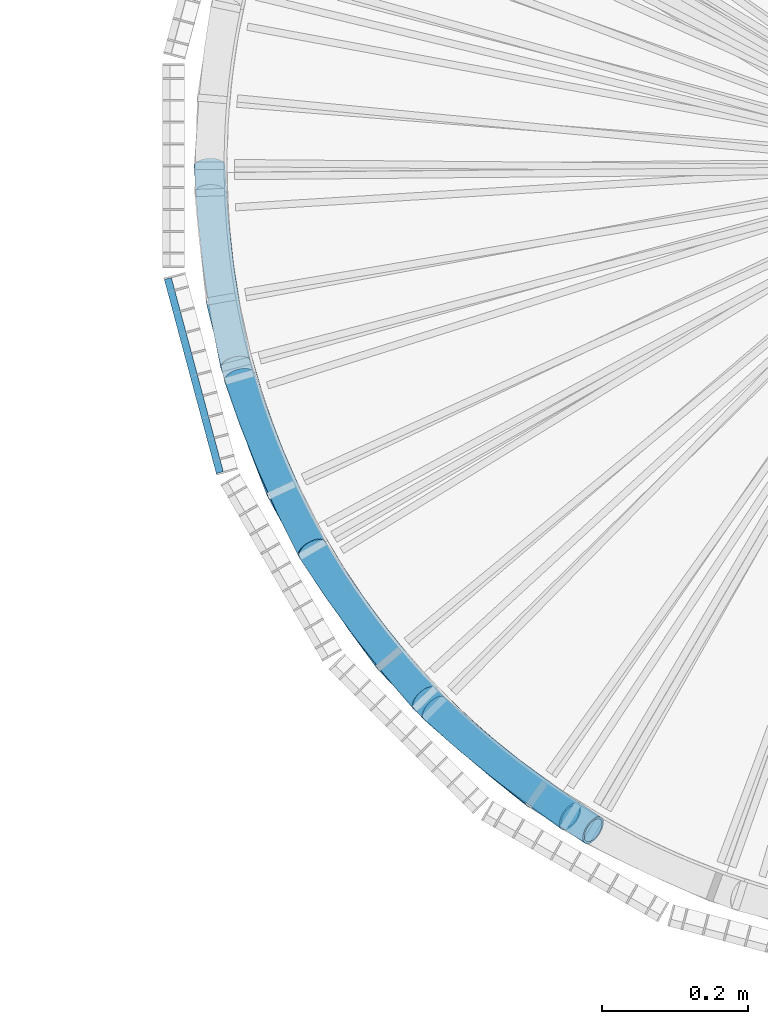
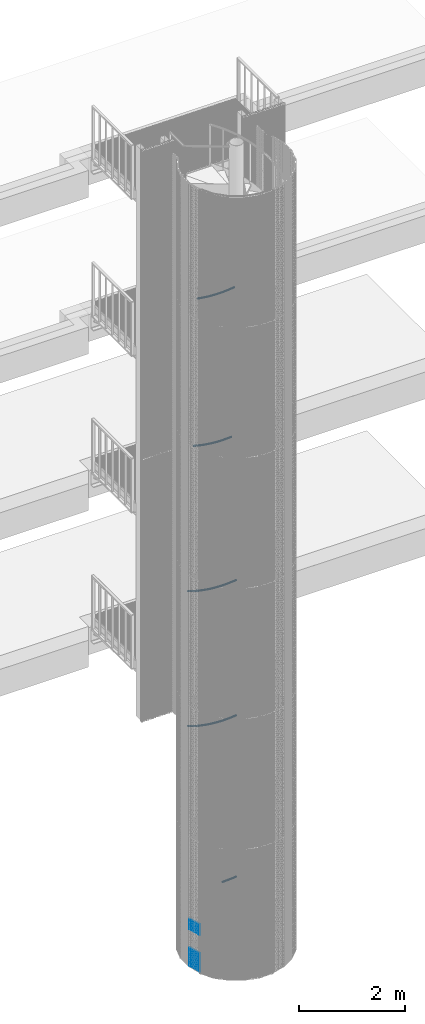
# One storey, part 134 of 1183: 24 beams, 15 members, 16 elements without a shape of their own.
"""IFC2X3 building model written with IfcOpenShell, lengths in millimetres."""

import ifcopenshell
import ifcopenshell.guid

model = None  # the IFC model being written
_history = None  # IfcOwnerHistory: only IFC2X3 demands one
_inside = {}  # id of a spatial element -> (the spatial element, [elements in it])
_under = {}  # id of a project, library or spatial element -> (it, [spatial elements below it])
_declared = {}  # id of a project -> (the project, [libraries it declares])
_typed = {}  # id of a type object -> (the type object, [elements of that type])
_made_of = {}  # id of a material, layer set ... -> (it, [elements and type objects made of it])


def new_model(schema):
    """Start an empty IFC model of exactly this schema.

    Asked for "IFC4X3", IfcOpenShell would pick the latest addendum, in which some entities
    have other attributes; the version numbers below select the first issue.
    IFC2X3 requires an IfcOwnerHistory on every rooted entity: one is made here for all.
    """
    global model, _history
    if schema == "IFC4X3":
        model = ifcopenshell.file(schema_version=(4, 3, 0, 0))
    else:
        model = ifcopenshell.file(schema=schema)
    _inside.clear()
    _under.clear()
    _declared.clear()
    _typed.clear()
    _made_of.clear()
    _history = None
    if model.schema == "IFC2X3":
        org = make("IfcOrganization", Name="unknown")
        user = make(
            "IfcPersonAndOrganization",
            ThePerson=make("IfcPerson", FamilyName="unknown"),
            TheOrganization=org,
        )
        app = make(
            "IfcApplication",
            ApplicationDeveloper=org,
            Version="unknown",
            ApplicationFullName="unknown",
            ApplicationIdentifier="unknown",
        )
        _history = make(
            "IfcOwnerHistory",
            OwningUser=user,
            OwningApplication=app,
            ChangeAction="ADDED",
            CreationDate=0,
        )
    return model


def make(cls, **values):
    """One entity of the class cls with the attributes given. An attribute that is None is left unset."""
    return model.create_entity(
        cls, **{name: value for name, value in values.items() if value is not None}
    )


def entity(cls, *values):
    """Any entity or typed value of the class cls, its attributes in the order of the schema. None: left unset."""
    e = model.create_entity(cls)
    for i, value in enumerate(values):
        if value is not None:
            e[i] = value
    return e


def rooted(cls, **values):
    """An entity with a GlobalId (a new one), such as an element, a storey or a relation."""
    return make(cls, GlobalId=ifcopenshell.guid.new(), OwnerHistory=_history, **values)


def si_unit(unit_type, name, prefix=None):
    """IfcSIUnit, for example si_unit("LENGTHUNIT", "METRE", prefix="MILLI")."""
    return make("IfcSIUnit", UnitType=unit_type, Prefix=prefix, Name=name)


def assignment(units):
    """IfcUnitAssignment: the units of a project."""
    return None if units is None else make("IfcUnitAssignment", Units=units)


def point(xyz):
    """IfcCartesianPoint."""
    return None if xyz is None else make("IfcCartesianPoint", Coordinates=xyz)


def direction(xyz):
    """IfcDirection."""
    return None if xyz is None else make("IfcDirection", DirectionRatios=xyz)


def frame(location, z_axis=None, x_axis=None):
    """IfcAxis2Placement3D, a coordinate frame: its origin and axes. An axis left out is left unset."""
    return make(
        "IfcAxis2Placement3D",
        Location=point(location),
        Axis=direction(z_axis),
        RefDirection=direction(x_axis),
    )


def frame_2d(location, x_axis=None):
    """IfcAxis2Placement2D, a coordinate frame in the plane: its origin and x axis."""
    return make(
        "IfcAxis2Placement2D", Location=point(location), RefDirection=direction(x_axis)
    )


def origin_with_axes():
    """The frame at (0, 0, 0) with the z axis (0, 0, 1) and the x axis (1, 0, 0) written out."""
    return frame((0.0, 0.0, 0.0), z_axis=(0.0, 0.0, 1.0), x_axis=(1.0, 0.0, 0.0))


def origin_2d_with_axis():
    """The frame at (0, 0) in the plane with the x axis (1, 0) written out."""
    return frame_2d((0.0, 0.0), x_axis=(1.0, 0.0))


def place(relative_to, where):
    """IfcLocalPlacement: puts the frame where relative to a parent placement (None: the world)."""
    return make(
        "IfcLocalPlacement", PlacementRelTo=relative_to, RelativePlacement=where
    )


def context(
    kind, dimensions, precision=None, world=None, true_north=None, identifier=None
):
    """IfcGeometricRepresentationContext, for example the 3D "Model" context."""
    return make(
        "IfcGeometricRepresentationContext",
        ContextIdentifier=identifier,
        ContextType=kind,
        CoordinateSpaceDimension=dimensions,
        Precision=precision,
        WorldCoordinateSystem=world,
        TrueNorth=true_north,
    )


def subcontext(parent, identifier, kind, view, scale=None):
    """IfcGeometricRepresentationSubContext, for example "Body" below "Model"."""
    return make(
        "IfcGeometricRepresentationSubContext",
        ContextIdentifier=identifier,
        ContextType=kind,
        ParentContext=parent,
        TargetScale=scale,
        TargetView=view,
    )


def project(units=None, contexts=None):
    """IfcProject with its units and contexts."""
    return rooted(
        "IfcProject",
        Name="project",
        RepresentationContexts=contexts,
        UnitsInContext=assignment(units),
    )


def spatial(cls, under=None, at=None, **own):
    """A site, building, storey or space (cls), placed at a placement, below another one or the project."""
    s = rooted(cls, ObjectPlacement=at, **own)
    if under is not None:
        _under.setdefault(under.id(), (under, []))[1].append(s)
    return s


def profile(cls, at=None, kind="AREA", **sizes):
    """A parametric profile (cls). Its sizes go by their IFC names, for example OverallWidth=200.0."""
    return make(cls, ProfileType=kind, Position=at, **sizes)


def rectangle(**sizes):
    """IfcRectangleProfileDef."""
    return profile("IfcRectangleProfileDef", **sizes)


def extrude(swept, where, along, depth):
    """IfcExtrudedAreaSolid: the profile swept, set in the frame where, extruded along a direction by depth."""
    return make(
        "IfcExtrudedAreaSolid",
        SweptArea=swept,
        Position=where,
        ExtrudedDirection=direction(along),
        Depth=depth,
    )


def shape(context_of_items, identifier, shape_type, items):
    """IfcShapeRepresentation: the items that make up one representation, for example the "Body"."""
    return make(
        "IfcShapeRepresentation",
        ContextOfItems=context_of_items,
        RepresentationIdentifier=identifier,
        RepresentationType=shape_type,
        Items=items,
    )


def material(Name=None, Category=None):
    """IfcMaterial."""
    return make("IfcMaterial", Name=Name, Category=Category)


def made_of(thing, what):
    """Note that an element or type object is made of a material, layer set ...; save() writes the relation."""
    if what is not None:
        _made_of.setdefault(what.id(), (what, []))[1].append(thing)
    return thing


def type_object(cls, material=None, **own):
    """A type object (cls), such as IfcWallType, which elements share."""
    return made_of(rooted(cls, **own), material)


def element(
    cls,
    number,
    at=None,
    inside=None,
    cuts=None,
    type_object=None,
    material=None,
    context=None,
    identifier="Body",
    shape_type=None,
    held_by="IfcProductDefinitionShape",
    body=None,
    shapes=None,
    **own,
):
    """One element of the class cls, such as IfcWall. Its Tag is "e" and its number.

    at: its placement. inside: the storey or other place that contains it. cuts: it is an
    opening in that element (IfcRelVoidsElement). A single representation is given by context,
    identifier, shape_type and body (its items); several are given by shapes. held_by: the class
    of the entity that holds the representations. save() writes the other relations.
    """
    e = rooted(cls, Tag="e%d" % number, ObjectPlacement=at, **own)
    if body is not None:
        shapes = [shape(context, identifier, shape_type, body)]
    if shapes is not None:
        e.Representation = make(held_by, Representations=shapes)
    if inside is not None:
        _inside.setdefault(inside.id(), (inside, []))[1].append(e)
    if cuts is not None:
        rooted(
            "IfcRelVoidsElement", RelatingBuildingElement=cuts, RelatedOpeningElement=e
        )
    if type_object is not None:
        _typed.setdefault(type_object.id(), (type_object, []))[1].append(e)
    return made_of(e, material)


def aggregate(whole, parts):
    """IfcRelAggregates: a whole, such as a stair, and the parts it consists of."""
    return rooted("IfcRelAggregates", RelatingObject=whole, RelatedObjects=parts)


def save(model, path):
    """Write the relations noted so far, then the file.

    IfcRelAggregates (storeys below a building ...), IfcRelContainedInSpatialStructure (elements
    in a storey), IfcRelDefinesByType, IfcRelAssociatesMaterial and IfcRelDeclares: one each for
    every whole, place, type object, material and project.
    """
    for whole, parts in _under.values():
        aggregate(whole, parts)
    for where, things in _inside.values():
        rooted(
            "IfcRelContainedInSpatialStructure",
            RelatedElements=things,
            RelatingStructure=where,
        )
    for kind, things in _typed.values():
        rooted("IfcRelDefinesByType", RelatedObjects=things, RelatingType=kind)
    for what, things in _made_of.values():
        rooted("IfcRelAssociatesMaterial", RelatedObjects=things, RelatingMaterial=what)
    for by, libraries in _declared.values():
        rooted("IfcRelDeclares", RelatingContext=by, RelatedDefinitions=libraries)
    model.write(path)


model = new_model("IFC2X3")

# Units and contexts
model_context = context("Model", 3, precision=1e-05, world=origin_with_axes())
body_context = subcontext(model_context, "Body", "Model", "MODEL_VIEW")
ifc_project = project(units=[si_unit("LENGTHUNIT", "METRE", prefix="MILLI"), si_unit("AREAUNIT", "SQUARE_METRE"), si_unit("VOLUMEUNIT", "CUBIC_METRE"), si_unit("MASSUNIT", "GRAM", prefix="KILO"), si_unit("TIMEUNIT", "SECOND"), si_unit("PLANEANGLEUNIT", "RADIAN"), si_unit("SOLIDANGLEUNIT", "STERADIAN"), si_unit("THERMODYNAMICTEMPERATUREUNIT", "DEGREE_CELSIUS"), si_unit("LUMINOUSINTENSITYUNIT", "LUMEN")], contexts=[model_context])

# Site, building, storey
site_placement = place(None, origin_with_axes())
site = spatial("IfcSite", under=ifc_project, at=site_placement, Name="Undefined", CompositionType="ELEMENT")
building_placement = place(site_placement, origin_with_axes())
building = spatial("IfcBuilding", under=site, at=building_placement, Name="Undefined", CompositionType="ELEMENT")
storey_placement = place(building_placement, origin_with_axes())
storey = spatial("IfcBuildingStorey", under=building, at=storey_placement, Name="Undefined", CompositionType="ELEMENT", Elevation=0.0)

# Assembly, beams
assembly_1_placement = place(storey_placement, origin_with_axes())
assembly_1 = element("IfcElementAssembly", 1, at=assembly_1_placement, inside=storey, Name="BORDURE", AssemblyPlace="NOTDEFINED", PredefinedType="NOTDEFINED")
ifc_material = material(Name="STEEL/S235JR")
beam_type = type_object("IfcBeamType", Name="PL2*10", PredefinedType="NOTDEFINED")
beam_1_placement = place(assembly_1_placement, frame((-1111.25508286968, -154.895926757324, 869.999999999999), z_axis=(-0.965925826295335, -0.258819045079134, 0.0), x_axis=(0.258819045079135, -0.965925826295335, 0.0)))
beam_1 = element("IfcBeam", 2, at=beam_1_placement, type_object=beam_type, material=ifc_material, Name="ENTRETOISE", context=body_context, shape_type="SweptSolid", body=[
    extrude(rectangle(XDim=2.0, YDim=10.0, at=origin_2d_with_axis()), frame((275.999999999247, 9.09494701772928e-13, 1.53210777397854e-14), z_axis=(-1.0, 0.0, 0.0), x_axis=(0.0, -1.0, 0.0)), (0.0, 0.0, 1.0), 276.0),
])
beam_2_placement = place(assembly_1_placement, frame((-1111.25508286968, -154.895926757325, 449.999999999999), z_axis=(-0.965925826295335, -0.258819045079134, 0.0), x_axis=(0.258819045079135, -0.965925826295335, 0.0)))
beam_2 = element("IfcBeam", 3, at=beam_2_placement, type_object=beam_type, material=ifc_material, Name="ENTRETOISE", context=body_context, shape_type="SweptSolid", body=[
    extrude(rectangle(XDim=2.0, YDim=10.0, at=origin_2d_with_axis()), frame((275.999999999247, 9.09494701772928e-13, 1.53210777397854e-14), z_axis=(-1.0, 0.0, 0.0), x_axis=(0.0, -1.0, 0.0)), (0.0, 0.0, 1.0), 276.0),
])
beam_3_placement = place(assembly_1_placement, frame((-1111.25508286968, -154.895926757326, 419.999999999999), z_axis=(-0.965925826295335, -0.258819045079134, 0.0), x_axis=(0.258819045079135, -0.965925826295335, 0.0)))
beam_3 = element("IfcBeam", 4, at=beam_3_placement, type_object=beam_type, material=ifc_material, Name="ENTRETOISE", context=body_context, shape_type="SweptSolid", body=[
    extrude(rectangle(XDim=2.0, YDim=10.0, at=origin_2d_with_axis()), frame((275.999999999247, 9.09494701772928e-13, 1.53210777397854e-14), z_axis=(-1.0, 0.0, 0.0), x_axis=(0.0, -1.0, 0.0)), (0.0, 0.0, 1.0), 276.0),
])
beam_4_placement = place(assembly_1_placement, frame((-1111.25508286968, -154.895926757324, 899.999999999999), z_axis=(-0.965925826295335, -0.258819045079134, 0.0), x_axis=(0.258819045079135, -0.965925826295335, 0.0)))
beam_4 = element("IfcBeam", 5, at=beam_4_placement, type_object=beam_type, material=ifc_material, Name="ENTRETOISE", context=body_context, shape_type="SweptSolid", body=[
    extrude(rectangle(XDim=2.0, YDim=10.0, at=origin_2d_with_axis()), frame((275.999999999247, 9.09494701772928e-13, 1.53210777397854e-14), z_axis=(-1.0, 0.0, 0.0), x_axis=(0.0, -1.0, 0.0)), (0.0, 0.0, 1.0), 276.0),
])
beam_5_placement = place(assembly_1_placement, frame((-1111.25508286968, -154.895926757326, 389.999999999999), z_axis=(-0.965925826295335, -0.258819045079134, 0.0), x_axis=(0.258819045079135, -0.965925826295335, 0.0)))
beam_5 = element("IfcBeam", 6, at=beam_5_placement, type_object=beam_type, material=ifc_material, Name="ENTRETOISE", context=body_context, shape_type="SweptSolid", body=[
    extrude(rectangle(XDim=2.0, YDim=10.0, at=origin_2d_with_axis()), frame((275.999999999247, 9.09494701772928e-13, 1.53210777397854e-14), z_axis=(-1.0, 0.0, 0.0), x_axis=(0.0, -1.0, 0.0)), (0.0, 0.0, 1.0), 276.0),
])
beam_6_placement = place(assembly_1_placement, frame((-1111.25508286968, -154.895926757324, 929.999999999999), z_axis=(-0.965925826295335, -0.258819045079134, 0.0), x_axis=(0.258819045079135, -0.965925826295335, 0.0)))
beam_6 = element("IfcBeam", 7, at=beam_6_placement, type_object=beam_type, material=ifc_material, Name="ENTRETOISE", context=body_context, shape_type="SweptSolid", body=[
    extrude(rectangle(XDim=2.0, YDim=10.0, at=origin_2d_with_axis()), frame((275.999999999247, 9.09494701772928e-13, 1.53210777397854e-14), z_axis=(-1.0, 0.0, 0.0), x_axis=(0.0, -1.0, 0.0)), (0.0, 0.0, 1.0), 276.0),
])
beam_7_placement = place(assembly_1_placement, frame((-1111.25508286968, -154.895926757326, 359.999999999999), z_axis=(-0.965925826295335, -0.258819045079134, 0.0), x_axis=(0.258819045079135, -0.965925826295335, 0.0)))
beam_7 = element("IfcBeam", 8, at=beam_7_placement, type_object=beam_type, material=ifc_material, Name="ENTRETOISE", context=body_context, shape_type="SweptSolid", body=[
    extrude(rectangle(XDim=2.0, YDim=10.0, at=origin_2d_with_axis()), frame((275.999999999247, 9.09494701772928e-13, 1.53210777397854e-14), z_axis=(-1.0, 0.0, 0.0), x_axis=(0.0, -1.0, 0.0)), (0.0, 0.0, 1.0), 276.0),
])
beam_8_placement = place(assembly_1_placement, frame((-1111.25508286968, -154.895926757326, 329.999999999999), z_axis=(-0.965925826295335, -0.258819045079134, 0.0), x_axis=(0.258819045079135, -0.965925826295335, 0.0)))
beam_8 = element("IfcBeam", 9, at=beam_8_placement, type_object=beam_type, material=ifc_material, Name="ENTRETOISE", context=body_context, shape_type="SweptSolid", body=[
    extrude(rectangle(XDim=2.0, YDim=10.0, at=origin_2d_with_axis()), frame((275.999999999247, 9.09494701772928e-13, 1.53210777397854e-14), z_axis=(-1.0, 0.0, 0.0), x_axis=(0.0, -1.0, 0.0)), (0.0, 0.0, 1.0), 276.0),
])
beam_9_placement = place(assembly_1_placement, frame((-1111.25508286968, -154.895926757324, 959.999999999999), z_axis=(-0.965925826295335, -0.258819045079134, 0.0), x_axis=(0.258819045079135, -0.965925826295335, 0.0)))
beam_9 = element("IfcBeam", 10, at=beam_9_placement, type_object=beam_type, material=ifc_material, Name="ENTRETOISE", context=body_context, shape_type="SweptSolid", body=[
    extrude(rectangle(XDim=2.0, YDim=10.0, at=origin_2d_with_axis()), frame((275.999999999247, 9.09494701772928e-13, 1.53210777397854e-14), z_axis=(-1.0, 0.0, 0.0), x_axis=(0.0, -1.0, 0.0)), (0.0, 0.0, 1.0), 276.0),
])
beam_10_placement = place(assembly_1_placement, frame((-1111.25508286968, -154.895926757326, 299.999999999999), z_axis=(-0.965925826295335, -0.258819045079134, 0.0), x_axis=(0.258819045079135, -0.965925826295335, 0.0)))
beam_10 = element("IfcBeam", 11, at=beam_10_placement, type_object=beam_type, material=ifc_material, Name="ENTRETOISE", context=body_context, shape_type="SweptSolid", body=[
    extrude(rectangle(XDim=2.0, YDim=10.0, at=origin_2d_with_axis()), frame((275.999999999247, 9.09494701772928e-13, 1.53210777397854e-14), z_axis=(-1.0, 0.0, 0.0), x_axis=(0.0, -1.0, 0.0)), (0.0, 0.0, 1.0), 276.0),
])
beam_11_placement = place(assembly_1_placement, frame((-1111.25508286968, -154.895926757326, 269.999999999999), z_axis=(-0.965925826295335, -0.258819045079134, 0.0), x_axis=(0.258819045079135, -0.965925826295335, 0.0)))
beam_11 = element("IfcBeam", 12, at=beam_11_placement, type_object=beam_type, material=ifc_material, Name="ENTRETOISE", context=body_context, shape_type="SweptSolid", body=[
    extrude(rectangle(XDim=2.0, YDim=10.0, at=origin_2d_with_axis()), frame((275.999999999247, 9.09494701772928e-13, 1.53210777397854e-14), z_axis=(-1.0, 0.0, 0.0), x_axis=(0.0, -1.0, 0.0)), (0.0, 0.0, 1.0), 276.0),
])
beam_12_placement = place(assembly_1_placement, frame((-1111.25508286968, -154.895926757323, 989.999999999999), z_axis=(-0.965925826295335, -0.258819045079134, 0.0), x_axis=(0.258819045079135, -0.965925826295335, 0.0)))
beam_12 = element("IfcBeam", 13, at=beam_12_placement, type_object=beam_type, material=ifc_material, Name="ENTRETOISE", context=body_context, shape_type="SweptSolid", body=[
    extrude(rectangle(XDim=2.0, YDim=10.0, at=origin_2d_with_axis()), frame((275.999999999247, 9.09494701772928e-13, 1.53210777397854e-14), z_axis=(-1.0, 0.0, 0.0), x_axis=(0.0, -1.0, 0.0)), (0.0, 0.0, 1.0), 276.0),
])
beam_13_placement = place(assembly_1_placement, frame((-1111.25508286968, -154.895926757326, 239.999999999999), z_axis=(-0.965925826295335, -0.258819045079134, 0.0), x_axis=(0.258819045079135, -0.965925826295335, 0.0)))
beam_13 = element("IfcBeam", 14, at=beam_13_placement, type_object=beam_type, material=ifc_material, Name="ENTRETOISE", context=body_context, shape_type="SweptSolid", body=[
    extrude(rectangle(XDim=2.0, YDim=10.0, at=origin_2d_with_axis()), frame((275.999999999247, 9.09494701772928e-13, 1.53210777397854e-14), z_axis=(-1.0, 0.0, 0.0), x_axis=(0.0, -1.0, 0.0)), (0.0, 0.0, 1.0), 276.0),
])
beam_14_placement = place(assembly_1_placement, frame((-1111.25508286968, -154.895926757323, 1020.0), z_axis=(-0.965925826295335, -0.258819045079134, 0.0), x_axis=(0.258819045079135, -0.965925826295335, 0.0)))
beam_14 = element("IfcBeam", 15, at=beam_14_placement, type_object=beam_type, material=ifc_material, Name="ENTRETOISE", context=body_context, shape_type="SweptSolid", body=[
    extrude(rectangle(XDim=2.0, YDim=10.0, at=origin_2d_with_axis()), frame((275.999999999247, 9.09494701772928e-13, 1.53210777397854e-14), z_axis=(-1.0, 0.0, 0.0), x_axis=(0.0, -1.0, 0.0)), (0.0, 0.0, 1.0), 276.0),
])
beam_15_placement = place(assembly_1_placement, frame((-1111.25508286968, -154.895926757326, 209.999999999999), z_axis=(-0.965925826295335, -0.258819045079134, 0.0), x_axis=(0.258819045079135, -0.965925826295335, 0.0)))
beam_15 = element("IfcBeam", 16, at=beam_15_placement, type_object=beam_type, material=ifc_material, Name="ENTRETOISE", context=body_context, shape_type="SweptSolid", body=[
    extrude(rectangle(XDim=2.0, YDim=10.0, at=origin_2d_with_axis()), frame((275.999999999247, 9.09494701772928e-13, 1.53210777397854e-14), z_axis=(-1.0, 0.0, 0.0), x_axis=(0.0, -1.0, 0.0)), (0.0, 0.0, 1.0), 276.0),
])
beam_16_placement = place(assembly_1_placement, frame((-1111.25508286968, -154.895926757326, 179.999999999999), z_axis=(-0.965925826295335, -0.258819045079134, 0.0), x_axis=(0.258819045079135, -0.965925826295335, 0.0)))
beam_16 = element("IfcBeam", 17, at=beam_16_placement, type_object=beam_type, material=ifc_material, Name="ENTRETOISE", context=body_context, shape_type="SweptSolid", body=[
    extrude(rectangle(XDim=2.0, YDim=10.0, at=origin_2d_with_axis()), frame((275.999999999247, 9.09494701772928e-13, 1.53210777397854e-14), z_axis=(-1.0, 0.0, 0.0), x_axis=(0.0, -1.0, 0.0)), (0.0, 0.0, 1.0), 276.0),
])
beam_17_placement = place(assembly_1_placement, frame((-1111.25508286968, -154.895926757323, 1050.0), z_axis=(-0.965925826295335, -0.258819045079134, 0.0), x_axis=(0.258819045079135, -0.965925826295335, 0.0)))
beam_17 = element("IfcBeam", 18, at=beam_17_placement, type_object=beam_type, material=ifc_material, Name="ENTRETOISE", context=body_context, shape_type="SweptSolid", body=[
    extrude(rectangle(XDim=2.0, YDim=10.0, at=origin_2d_with_axis()), frame((275.999999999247, 9.09494701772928e-13, 1.53210777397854e-14), z_axis=(-1.0, 0.0, 0.0), x_axis=(0.0, -1.0, 0.0)), (0.0, 0.0, 1.0), 276.0),
])
beam_18_placement = place(assembly_1_placement, frame((-1111.25508286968, -154.895926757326, 149.999999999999), z_axis=(-0.965925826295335, -0.258819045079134, 0.0), x_axis=(0.258819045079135, -0.965925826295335, 0.0)))
beam_18 = element("IfcBeam", 19, at=beam_18_placement, type_object=beam_type, material=ifc_material, Name="ENTRETOISE", context=body_context, shape_type="SweptSolid", body=[
    extrude(rectangle(XDim=2.0, YDim=10.0, at=origin_2d_with_axis()), frame((275.999999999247, 9.09494701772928e-13, 1.53210777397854e-14), z_axis=(-1.0, 0.0, 0.0), x_axis=(0.0, -1.0, 0.0)), (0.0, 0.0, 1.0), 276.0),
])
beam_19_placement = place(assembly_1_placement, frame((-1111.25508286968, -154.895926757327, 119.999999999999), z_axis=(-0.965925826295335, -0.258819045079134, 0.0), x_axis=(0.258819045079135, -0.965925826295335, 0.0)))
beam_19 = element("IfcBeam", 20, at=beam_19_placement, type_object=beam_type, material=ifc_material, Name="ENTRETOISE", context=body_context, shape_type="SweptSolid", body=[
    extrude(rectangle(XDim=2.0, YDim=10.0, at=origin_2d_with_axis()), frame((275.999999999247, 9.09494701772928e-13, 1.53210777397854e-14), z_axis=(-1.0, 0.0, 0.0), x_axis=(0.0, -1.0, 0.0)), (0.0, 0.0, 1.0), 276.0),
])
beam_20_placement = place(assembly_1_placement, frame((-1111.25508286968, -154.895926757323, 1080.0), z_axis=(-0.965925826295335, -0.258819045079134, 0.0), x_axis=(0.258819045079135, -0.965925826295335, 0.0)))
beam_20 = element("IfcBeam", 21, at=beam_20_placement, type_object=beam_type, material=ifc_material, Name="ENTRETOISE", context=body_context, shape_type="SweptSolid", body=[
    extrude(rectangle(XDim=2.0, YDim=10.0, at=origin_2d_with_axis()), frame((275.999999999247, 9.09494701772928e-13, 1.53210777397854e-14), z_axis=(-1.0, 0.0, 0.0), x_axis=(0.0, -1.0, 0.0)), (0.0, 0.0, 1.0), 276.0),
])
beam_21_placement = place(assembly_1_placement, frame((-1111.25508286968, -154.895926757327, 89.9999999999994), z_axis=(-0.965925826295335, -0.258819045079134, 0.0), x_axis=(0.258819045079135, -0.965925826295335, 0.0)))
beam_21 = element("IfcBeam", 22, at=beam_21_placement, type_object=beam_type, material=ifc_material, Name="ENTRETOISE", context=body_context, shape_type="SweptSolid", body=[
    extrude(rectangle(XDim=2.0, YDim=10.0, at=origin_2d_with_axis()), frame((275.999999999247, 9.09494701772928e-13, 1.53210777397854e-14), z_axis=(-1.0, 0.0, 0.0), x_axis=(0.0, -1.0, 0.0)), (0.0, 0.0, 1.0), 276.0),
])
beam_22_placement = place(assembly_1_placement, frame((-1111.25508286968, -154.895926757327, 59.9999999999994), z_axis=(-0.965925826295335, -0.258819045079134, 0.0), x_axis=(0.258819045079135, -0.965925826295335, 0.0)))
beam_22 = element("IfcBeam", 23, at=beam_22_placement, type_object=beam_type, material=ifc_material, Name="ENTRETOISE", context=body_context, shape_type="SweptSolid", body=[
    extrude(rectangle(XDim=2.0, YDim=10.0, at=origin_2d_with_axis()), frame((275.999999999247, 9.09494701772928e-13, 1.53210777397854e-14), z_axis=(-1.0, 0.0, 0.0), x_axis=(0.0, -1.0, 0.0)), (0.0, 0.0, 1.0), 276.0),
])
beam_23_placement = place(assembly_1_placement, frame((-1111.25508286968, -154.895926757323, 1110.0), z_axis=(-0.965925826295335, -0.258819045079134, 0.0), x_axis=(0.258819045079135, -0.965925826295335, 0.0)))
beam_23 = element("IfcBeam", 24, at=beam_23_placement, type_object=beam_type, material=ifc_material, Name="ENTRETOISE", context=body_context, shape_type="SweptSolid", body=[
    extrude(rectangle(XDim=2.0, YDim=10.0, at=origin_2d_with_axis()), frame((275.999999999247, 9.09494701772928e-13, 1.53210777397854e-14), z_axis=(-1.0, 0.0, 0.0), x_axis=(0.0, -1.0, 0.0)), (0.0, 0.0, 1.0), 276.0),
])
beam_24_placement = place(assembly_1_placement, frame((-1111.25508286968, -154.895926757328, 29.9999999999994), z_axis=(-0.965925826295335, -0.258819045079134, 0.0), x_axis=(0.258819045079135, -0.965925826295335, 0.0)))
beam_24 = element("IfcBeam", 25, at=beam_24_placement, type_object=beam_type, material=ifc_material, Name="ENTRETOISE", context=body_context, shape_type="SweptSolid", body=[
    extrude(rectangle(XDim=2.0, YDim=10.0, at=origin_2d_with_axis()), frame((275.999999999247, 9.09494701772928e-13, 1.53210777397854e-14), z_axis=(-1.0, 0.0, 0.0), x_axis=(0.0, -1.0, 0.0)), (0.0, 0.0, 1.0), 276.0),
])
aggregate(assembly_1, [beam_1, beam_2, beam_3, beam_4, beam_5, beam_6, beam_7, beam_8, beam_9, beam_10, beam_11, beam_12, beam_13, beam_14, beam_15, beam_16, beam_17, beam_18, beam_19, beam_20, beam_21, beam_22, beam_23, beam_24])

# Assembly, member
assembly_2_placement = place(storey_placement, origin_with_axes())
assembly_2 = element("IfcElementAssembly", 26, at=assembly_2_placement, inside=storey, Name="MONTANT", AssemblyPlace="NOTDEFINED", PredefinedType="NOTDEFINED")
member_type = type_object("IfcMemberType", Name="TUBE-42.4*3.2", PredefinedType="NOTDEFINED")
member_1_placement = place(assembly_2_placement, frame((-745.2905473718, -745.290547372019, 5890.12000000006), z_axis=(-0.608761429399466, -0.793353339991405, 1.80915776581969e-10), x_axis=(0.691737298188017, -0.530788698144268, 0.489655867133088)))
member_1 = element("IfcMember", 27, at=member_1_placement, type_object=member_type, material=ifc_material, Name="MAIN_COURANTE", context=body_context, shape_type="SweptSolid", body=[
    entity("IfcRevolvedAreaSolid", entity("IfcCircleHollowProfileDef", "AREA", None, entity("IfcAxis2Placement2D", entity("IfcCartesianPoint", [0.0, 0.0]), entity("IfcDirection", [1.0, 0.0])), 21.200000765, 3.200000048), entity("IfcAxis2Placement3D", entity("IfcCartesianPoint", [315.568566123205, -9.09494701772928e-13, -1.31255851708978e-15]), entity("IfcDirection", [-0.997194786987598, -4.44488503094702e-18, 0.0748502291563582]), entity("IfcDirection", [0.0, -1.0, 0.0])), entity("IfcAxis1Placement", entity("IfcCartesianPoint", [0.0, -2108.0, 0.0]), entity("IfcDirection", [1.0, 0.0, 0.0])), 0.149840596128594),
])
aggregate(assembly_2, [member_1])

assembly_3_placement = place(storey_placement, origin_with_axes())
assembly_3 = element("IfcElementAssembly", 28, at=assembly_3_placement, inside=storey, Name="MONTANT", AssemblyPlace="NOTDEFINED", PredefinedType="NOTDEFINED")
member_2_placement = place(assembly_3_placement, frame((-912.790775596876, -527.000000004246, 5735.59999999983), z_axis=(-0.793353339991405, -0.608761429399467, -1.80915776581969e-10), x_axis=(0.530788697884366, -0.691737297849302, 0.489655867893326)))
member_2 = element("IfcMember", 29, at=member_2_placement, type_object=member_type, material=ifc_material, Name="MAIN_COURANTE", context=body_context, shape_type="SweptSolid", body=[
    entity("IfcRevolvedAreaSolid", entity("IfcCircleHollowProfileDef", "AREA", None, entity("IfcAxis2Placement2D", entity("IfcCartesianPoint", [0.0, 0.0]), entity("IfcDirection", [1.0, 0.0])), 21.200000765, 3.200000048), entity("IfcAxis2Placement3D", entity("IfcCartesianPoint", [315.568566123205, -9.09494701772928e-13, -1.31255851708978e-15]), entity("IfcDirection", [-0.997194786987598, -4.44488503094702e-18, 0.0748502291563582]), entity("IfcDirection", [0.0, -1.0, 0.0])), entity("IfcAxis1Placement", entity("IfcCartesianPoint", [0.0, -2108.0, 0.0]), entity("IfcDirection", [1.0, 0.0, 0.0])), 0.149840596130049),
])
aggregate(assembly_3, [member_2])

assembly_4_placement = place(storey_placement, origin_with_axes())
assembly_4 = element("IfcElementAssembly", 30, at=assembly_4_placement, inside=storey, Name="MONTANT", AssemblyPlace="NOTDEFINED", PredefinedType="NOTDEFINED")
member_3_placement = place(assembly_4_placement, frame((-1018.08582090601, -272.795273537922, 5581.08000000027), z_axis=(-0.923879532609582, -0.382683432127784, -1.50203959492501e-10), x_axis=(0.333667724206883, -0.805545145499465, 0.489655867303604)))
member_3 = element("IfcMember", 31, at=member_3_placement, type_object=member_type, material=ifc_material, Name="MAIN_COURANTE", context=body_context, shape_type="SweptSolid", body=[
    entity("IfcRevolvedAreaSolid", entity("IfcCircleHollowProfileDef", "AREA", None, entity("IfcAxis2Placement2D", entity("IfcCartesianPoint", [0.0, 0.0]), entity("IfcDirection", [1.0, 0.0])), 21.200000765, 3.200000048), entity("IfcAxis2Placement3D", entity("IfcCartesianPoint", [315.568566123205, -9.09494701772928e-13, -1.31255851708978e-15]), entity("IfcDirection", [-0.997194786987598, -4.44488503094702e-18, 0.0748502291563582]), entity("IfcDirection", [0.0, -1.0, 0.0])), entity("IfcAxis1Placement", entity("IfcCartesianPoint", [0.0, -2108.0, 0.0]), entity("IfcDirection", [1.0, 0.0, 0.0])), 0.149840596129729),
])
aggregate(assembly_4, [member_3])

assembly_5_placement = place(storey_placement, origin_with_axes())
assembly_5 = element("IfcElementAssembly", 32, at=assembly_5_placement, inside=storey, Name="MONTANT", AssemblyPlace="NOTDEFINED", PredefinedType="NOTDEFINED")
member_4_placement = place(assembly_5_placement, frame((-1054.00000001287, -4.08931555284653e-10, 5426.5600000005), z_axis=(-0.991444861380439, -0.130526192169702, -6.66004780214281e-11), x_axis=(0.11380784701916, -0.864456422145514, 0.489655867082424)))
member_4 = element("IfcMember", 33, at=member_4_placement, type_object=member_type, material=ifc_material, Name="MAIN_COURANTE", context=body_context, shape_type="SweptSolid", body=[
    entity("IfcRevolvedAreaSolid", entity("IfcCircleHollowProfileDef", "AREA", None, entity("IfcAxis2Placement2D", entity("IfcCartesianPoint", [0.0, 0.0]), entity("IfcDirection", [1.0, 0.0])), 21.200000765, 3.200000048), entity("IfcAxis2Placement3D", entity("IfcCartesianPoint", [315.568566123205, -9.09494701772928e-13, -1.31255851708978e-15]), entity("IfcDirection", [-0.997194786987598, -4.44488503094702e-18, 0.0748502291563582]), entity("IfcDirection", [0.0, -1.0, 0.0])), entity("IfcAxis1Placement", entity("IfcCartesianPoint", [0.0, -2108.0, 0.0]), entity("IfcDirection", [1.0, 0.0, 0.0])), 0.149840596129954),
])
aggregate(assembly_5, [member_4])

assembly_6_placement = place(storey_placement, origin_with_axes())
assembly_6 = element("IfcElementAssembly", 34, at=assembly_6_placement, inside=storey, Name="MONTANT", AssemblyPlace="NOTDEFINED", PredefinedType="NOTDEFINED")
member_5_placement = place(assembly_6_placement, frame((-745.290547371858, -745.290547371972, 2181.64000000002), z_axis=(-0.608761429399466, -0.793353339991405, 1.80915776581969e-10), x_axis=(0.691737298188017, -0.530788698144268, 0.489655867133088)))
member_5 = element("IfcMember", 35, at=member_5_placement, type_object=member_type, material=ifc_material, Name="MAIN_COURANTE", context=body_context, shape_type="SweptSolid", body=[
    entity("IfcRevolvedAreaSolid", entity("IfcCircleHollowProfileDef", "AREA", None, entity("IfcAxis2Placement2D", entity("IfcCartesianPoint", [0.0, 0.0]), entity("IfcDirection", [1.0, 0.0])), 21.200000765, 3.200000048), entity("IfcAxis2Placement3D", entity("IfcCartesianPoint", [315.568566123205, -9.09494701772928e-13, -1.31255851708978e-15]), entity("IfcDirection", [-0.997194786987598, -4.44488503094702e-18, 0.0748502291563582]), entity("IfcDirection", [0.0, -1.0, 0.0])), entity("IfcAxis1Placement", entity("IfcCartesianPoint", [0.0, -2108.0, 0.0]), entity("IfcDirection", [1.0, 0.0, 0.0])), 0.149840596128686),
])
aggregate(assembly_6, [member_5])

assembly_7_placement = place(storey_placement, origin_with_axes())
assembly_7 = element("IfcElementAssembly", 36, at=assembly_7_placement, inside=storey, Name="MONTANT", AssemblyPlace="NOTDEFINED", PredefinedType="NOTDEFINED")
member_6_placement = place(assembly_7_placement, frame((-745.290547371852, -745.290547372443, 8998.67999999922), z_axis=(-0.608761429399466, -0.793353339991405, 1.80915776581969e-10), x_axis=(0.689586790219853, -0.5291385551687, 0.494451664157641)))
member_6 = element("IfcMember", 37, at=member_6_placement, type_object=member_type, material=ifc_material, Name="MAIN_COURANTE", context=body_context, shape_type="SweptSolid", body=[
    entity("IfcRevolvedAreaSolid", entity("IfcCircleHollowProfileDef", "AREA", None, entity("IfcAxis2Placement2D", entity("IfcCartesianPoint", [0.0, 0.0]), entity("IfcDirection", [1.0, 0.0])), 21.200000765, 3.200000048), entity("IfcAxis2Placement3D", entity("IfcCartesianPoint", [316.552681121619, 9.09494701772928e-13, -1.82569453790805e-12]), entity("IfcDirection", [-0.997177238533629, 2.1263748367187e-18, 0.0750836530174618]), entity("IfcDirection", [0.0, -1.0, 0.0])), entity("IfcAxis1Placement", entity("IfcCartesianPoint", [0.0, -2108.0, 0.0]), entity("IfcDirection", [1.0, 0.0, 0.0])), 0.150308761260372),
])
aggregate(assembly_7, [member_6])

assembly_8_placement = place(storey_placement, origin_with_axes())
assembly_8 = element("IfcElementAssembly", 38, at=assembly_8_placement, inside=storey, Name="MONTANT", AssemblyPlace="NOTDEFINED", PredefinedType="NOTDEFINED")
member_7_placement = place(assembly_8_placement, frame((-912.790775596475, -527.000000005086, 8842.16000000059), z_axis=(-0.793353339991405, -0.608761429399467, -1.80915776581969e-10), x_axis=(0.529138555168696, -0.689586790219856, 0.494451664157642)))
member_7 = element("IfcMember", 39, at=member_7_placement, type_object=member_type, material=ifc_material, Name="MAIN_COURANTE", context=body_context, shape_type="SweptSolid", body=[
    entity("IfcRevolvedAreaSolid", entity("IfcCircleHollowProfileDef", "AREA", None, entity("IfcAxis2Placement2D", entity("IfcCartesianPoint", [0.0, 0.0]), entity("IfcDirection", [1.0, 0.0])), 21.200000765, 3.200000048), entity("IfcAxis2Placement3D", entity("IfcCartesianPoint", [316.552681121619, 9.09494701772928e-13, -1.82569453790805e-12]), entity("IfcDirection", [-0.997177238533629, 2.1263748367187e-18, 0.0750836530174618]), entity("IfcDirection", [0.0, -1.0, 0.0])), entity("IfcAxis1Placement", entity("IfcCartesianPoint", [0.0, -2108.0, 0.0]), entity("IfcDirection", [1.0, 0.0, 0.0])), 0.150308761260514),
])
aggregate(assembly_8, [member_7])

assembly_9_placement = place(storey_placement, origin_with_axes())
assembly_9 = element("IfcElementAssembly", 40, at=assembly_9_placement, inside=storey, Name="MONTANT", AssemblyPlace="NOTDEFINED", PredefinedType="NOTDEFINED")
member_8_placement = place(assembly_9_placement, frame((-1018.08582090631, -272.795273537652, 8685.64000000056), z_axis=(-0.923879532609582, -0.382683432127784, -1.50203959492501e-10), x_axis=(0.332630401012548, -0.803040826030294, 0.494451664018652)))
member_8 = element("IfcMember", 41, at=member_8_placement, type_object=member_type, material=ifc_material, Name="MAIN_COURANTE", context=body_context, shape_type="SweptSolid", body=[
    entity("IfcRevolvedAreaSolid", entity("IfcCircleHollowProfileDef", "AREA", None, entity("IfcAxis2Placement2D", entity("IfcCartesianPoint", [0.0, 0.0]), entity("IfcDirection", [1.0, 0.0])), 21.200000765, 3.200000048), entity("IfcAxis2Placement3D", entity("IfcCartesianPoint", [316.552681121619, 9.09494701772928e-13, -1.82569453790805e-12]), entity("IfcDirection", [-0.997177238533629, 2.1263748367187e-18, 0.0750836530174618]), entity("IfcDirection", [0.0, -1.0, 0.0])), entity("IfcAxis1Placement", entity("IfcCartesianPoint", [0.0, -2108.0, 0.0]), entity("IfcDirection", [1.0, 0.0, 0.0])), 0.150308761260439),
])
aggregate(assembly_9, [member_8])

assembly_10_placement = place(storey_placement, origin_with_axes())
assembly_10 = element("IfcElementAssembly", 42, at=assembly_10_placement, inside=storey, Name="MONTANT", AssemblyPlace="NOTDEFINED", PredefinedType="NOTDEFINED")
member_9_placement = place(assembly_10_placement, frame((-1053.99999999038, -1.15562670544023e-10, 8529.11999999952), z_axis=(-0.991444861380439, -0.130526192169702, -6.66004780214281e-11), x_axis=(0.113454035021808, -0.861768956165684, 0.494451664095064)))
member_9 = element("IfcMember", 43, at=member_9_placement, type_object=member_type, material=ifc_material, Name="MAIN_COURANTE", context=body_context, shape_type="SweptSolid", body=[
    entity("IfcRevolvedAreaSolid", entity("IfcCircleHollowProfileDef", "AREA", None, entity("IfcAxis2Placement2D", entity("IfcCartesianPoint", [0.0, 0.0]), entity("IfcDirection", [1.0, 0.0])), 21.200000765, 3.200000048), entity("IfcAxis2Placement3D", entity("IfcCartesianPoint", [316.552681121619, 9.09494701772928e-13, -1.82569453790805e-12]), entity("IfcDirection", [-0.997177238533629, 2.1263748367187e-18, 0.0750836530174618]), entity("IfcDirection", [0.0, -1.0, 0.0])), entity("IfcAxis1Placement", entity("IfcCartesianPoint", [0.0, -2108.0, 0.0]), entity("IfcDirection", [1.0, 0.0, 0.0])), 0.150308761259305),
])
aggregate(assembly_10, [member_9])

assembly_11_placement = place(storey_placement, origin_with_axes())
assembly_11 = element("IfcElementAssembly", 44, at=assembly_11_placement, inside=storey, Name="MONTANT", AssemblyPlace="NOTDEFINED", PredefinedType="NOTDEFINED")
member_10_placement = place(assembly_11_placement, frame((-807.410843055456, -677.498140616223, 12285.6400000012), z_axis=(-0.675590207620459, -0.737277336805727, 8.45193426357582e-11), x_axis=(0.640845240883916, -0.587226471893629, 0.494451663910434)))
member_10 = element("IfcMember", 45, at=member_10_placement, type_object=member_type, material=ifc_material, Name="MAIN_COURANTE", context=body_context, shape_type="SweptSolid", body=[
    entity("IfcRevolvedAreaSolid", entity("IfcCircleHollowProfileDef", "AREA", None, entity("IfcAxis2Placement2D", entity("IfcCartesianPoint", [0.0, 0.0]), entity("IfcDirection", [1.0, 0.0])), 21.200000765, 3.200000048), entity("IfcAxis2Placement3D", entity("IfcCartesianPoint", [316.552681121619, 9.09494701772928e-13, -1.82569453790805e-12]), entity("IfcDirection", [-0.997177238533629, 2.1263748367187e-18, 0.0750836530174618]), entity("IfcDirection", [0.0, -1.0, 0.0])), entity("IfcAxis1Placement", entity("IfcCartesianPoint", [0.0, -2108.0, 0.0]), entity("IfcDirection", [1.0, 0.0, 0.0])), 0.150308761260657),
])
aggregate(assembly_11, [member_10])

assembly_12_placement = place(storey_placement, origin_with_axes())
assembly_12 = element("IfcElementAssembly", 46, at=assembly_12_placement, inside=storey, Name="MONTANT", AssemblyPlace="NOTDEFINED", PredefinedType="NOTDEFINED")
member_11_placement = place(assembly_12_placement, frame((-955.248407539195, -445.439647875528, 12129.1200000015), z_axis=(-0.843391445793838, -0.537299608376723, 2.43751856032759e-10), x_axis=(0.467023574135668, -0.733080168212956, 0.494451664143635)))
member_11 = element("IfcMember", 47, at=member_11_placement, type_object=member_type, material=ifc_material, Name="MAIN_COURANTE", context=body_context, shape_type="SweptSolid", body=[
    entity("IfcRevolvedAreaSolid", entity("IfcCircleHollowProfileDef", "AREA", None, entity("IfcAxis2Placement2D", entity("IfcCartesianPoint", [0.0, 0.0]), entity("IfcDirection", [1.0, 0.0])), 21.200000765, 3.200000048), entity("IfcAxis2Placement3D", entity("IfcCartesianPoint", [316.552681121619, 9.09494701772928e-13, -1.82569453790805e-12]), entity("IfcDirection", [-0.997177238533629, 2.1263748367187e-18, 0.0750836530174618]), entity("IfcDirection", [0.0, -1.0, 0.0])), entity("IfcAxis1Placement", entity("IfcCartesianPoint", [0.0, -2108.0, 0.0]), entity("IfcDirection", [1.0, 0.0, 0.0])), 0.150308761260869),
])
aggregate(assembly_12, [member_11])

assembly_13_placement = place(storey_placement, origin_with_axes())
assembly_13 = element("IfcElementAssembly", 48, at=assembly_13_placement, inside=storey, Name="MONTANT", AssemblyPlace="NOTDEFINED", PredefinedType="NOTDEFINED")
member_12_placement = place(assembly_13_placement, frame((-1037.98737168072, -183.02517926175, 11972.599999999), z_axis=(-0.953716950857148, -0.300705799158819, -4.31926309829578e-10), x_axis=(0.261375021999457, -0.828975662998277, 0.494451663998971)))
member_12 = element("IfcMember", 49, at=member_12_placement, type_object=member_type, material=ifc_material, Name="MAIN_COURANTE", context=body_context, shape_type="SweptSolid", body=[
    entity("IfcRevolvedAreaSolid", entity("IfcCircleHollowProfileDef", "AREA", None, entity("IfcAxis2Placement2D", entity("IfcCartesianPoint", [0.0, 0.0]), entity("IfcDirection", [1.0, 0.0])), 21.200000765, 3.200000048), entity("IfcAxis2Placement3D", entity("IfcCartesianPoint", [316.552681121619, 9.09494701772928e-13, -1.82569453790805e-12]), entity("IfcDirection", [-0.997177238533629, 2.1263748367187e-18, 0.0750836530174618]), entity("IfcDirection", [0.0, -1.0, 0.0])), entity("IfcAxis1Placement", entity("IfcCartesianPoint", [0.0, -2108.0, 0.0]), entity("IfcDirection", [1.0, 0.0, 0.0])), 0.150308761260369),
])
aggregate(assembly_13, [member_12])

assembly_14_placement = place(storey_placement, origin_with_axes())
assembly_14 = element("IfcElementAssembly", 50, at=assembly_14_placement, inside=storey, Name="MONTANT", AssemblyPlace="NOTDEFINED", PredefinedType="NOTDEFINED")
member_13_placement = place(assembly_14_placement, frame((-758.184149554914, -732.169922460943, 15729.119999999), z_axis=(-0.629320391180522, -0.777145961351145, 4.91618266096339e-11), x_axis=(0.663669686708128, -0.537429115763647, 0.520300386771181)))
member_13 = element("IfcMember", 51, at=member_13_placement, type_object=member_type, material=ifc_material, Name="MAIN_COURANTE", context=body_context, shape_type="SweptSolid", body=[
    entity("IfcRevolvedAreaSolid", entity("IfcCircleHollowProfileDef", "AREA", None, entity("IfcAxis2Placement2D", entity("IfcCartesianPoint", [0.0, 0.0]), entity("IfcDirection", [1.0, 0.0])), 21.200000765, 3.200000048), entity("IfcAxis2Placement3D", entity("IfcCartesianPoint", [300.826222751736, 9.26193911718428e-13, -2.55538133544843e-15]), entity("IfcDirection", [-0.997451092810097, -5.56582410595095e-17, 0.0713534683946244]), entity("IfcDirection", [0.0, -1.0, 0.0])), entity("IfcAxis1Placement", entity("IfcCartesianPoint", [0.0, -2108.0, 0.0]), entity("IfcDirection", [1.0, 0.0, 0.0])), 0.142828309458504),
])
aggregate(assembly_14, [member_13])

assembly_15_placement = place(storey_placement, origin_with_axes())
assembly_15 = element("IfcElementAssembly", 52, at=assembly_15_placement, inside=storey, Name="MONTANT", AssemblyPlace="NOTDEFINED", PredefinedType="NOTDEFINED")
member_14_placement = place(assembly_15_placement, frame((-912.790775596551, -527.000000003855, 15572.5999999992), z_axis=(-0.79863551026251, -0.601815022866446, -1.61237039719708e-10), x_axis=(0.513939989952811, -0.682021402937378, 0.520300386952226)))
member_14 = element("IfcMember", 53, at=member_14_placement, type_object=member_type, material=ifc_material, Name="MAIN_COURANTE", context=body_context, shape_type="SweptSolid", body=[
    entity("IfcRevolvedAreaSolid", entity("IfcCircleHollowProfileDef", "AREA", None, entity("IfcAxis2Placement2D", entity("IfcCartesianPoint", [0.0, 0.0]), entity("IfcDirection", [1.0, 0.0])), 21.200000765, 3.200000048), entity("IfcAxis2Placement3D", entity("IfcCartesianPoint", [300.826222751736, 9.26193911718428e-13, -2.55538133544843e-15]), entity("IfcDirection", [-0.997451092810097, -5.56582410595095e-17, 0.0713534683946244]), entity("IfcDirection", [0.0, -1.0, 0.0])), entity("IfcAxis1Placement", entity("IfcCartesianPoint", [0.0, -2108.0, 0.0]), entity("IfcDirection", [1.0, 0.0, 0.0])), 0.14282830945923),
])
aggregate(assembly_15, [member_14])

assembly_16_placement = place(storey_placement, origin_with_axes())
assembly_16 = element("IfcElementAssembly", 54, at=assembly_16_placement, inside=storey, Name="MONTANT", AssemblyPlace="NOTDEFINED", PredefinedType="NOTDEFINED")
member_15_placement = place(assembly_16_placement, frame((-1013.16982754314, -290.521773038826, 15416.0800000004), z_axis=(-0.920504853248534, -0.390731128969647, -7.61883711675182e-11), x_axis=(0.333677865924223, -0.78609578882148, 0.520300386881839)))
member_15 = element("IfcMember", 55, at=member_15_placement, type_object=member_type, material=ifc_material, Name="MAIN_COURANTE", context=body_context, shape_type="SweptSolid", body=[
    entity("IfcRevolvedAreaSolid", entity("IfcCircleHollowProfileDef", "AREA", None, entity("IfcAxis2Placement2D", entity("IfcCartesianPoint", [0.0, 0.0]), entity("IfcDirection", [1.0, 0.0])), 21.200000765, 3.200000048), entity("IfcAxis2Placement3D", entity("IfcCartesianPoint", [300.826222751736, 9.26193911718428e-13, -2.55538133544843e-15]), entity("IfcDirection", [-0.997451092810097, -5.56582410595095e-17, 0.0713534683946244]), entity("IfcDirection", [0.0, -1.0, 0.0])), entity("IfcAxis1Placement", entity("IfcCartesianPoint", [0.0, -2108.0, 0.0]), entity("IfcDirection", [1.0, 0.0, 0.0])), 0.142828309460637),
])
aggregate(assembly_16, [member_15])

save(model, "model.ifc")
